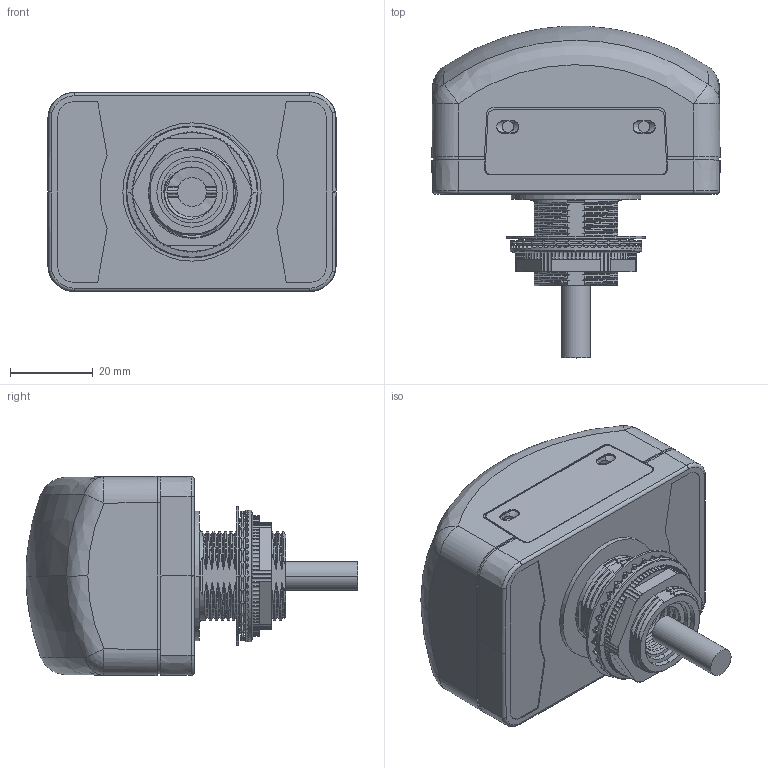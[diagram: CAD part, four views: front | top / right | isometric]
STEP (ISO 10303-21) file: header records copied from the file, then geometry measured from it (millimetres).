
FILE_DESCRIPTION((''),'2;1');
FILE_NAME('800Z-GL2_ASM','2013-10-03T',('Gkariappa'),(''),'PRO/ENGINEER BY PARAMETRIC TECHNOLOGY CORPORATION, 2010140','PRO/ENGINEER BY PARAMETRIC TECHNOLOGY CORPORATION, 2010140','');
FILE_SCHEMA(('CONFIG_CONTROL_DESIGN'));
Products named in the file (14): 40194-183_NEW_AF0; 40194-328_AF0_ASM; 40194-185; 40194-184-FORM; 40194-94284800; 10000010354; 40194-326_ASM; 40194-LABEL; 40194-456-20MMGSKT_NEW; 40194-465-LOCKWSHR_NEW; 40194-7501203601_NEW; 40194-7501203501_NEW; CABLE1; 800Z-GL2_ASM
Assembly tree (14 placements, depth 3):
  800Z-GL2_ASM
    40194-328_AF0_ASM
      40194-183_NEW_AF0
    40194-326_ASM
      40194-185
      40194-184-FORM  x2
      40194-94284800
      10000010354
    40194-LABEL
    40194-456-20MMGSKT_NEW
    40194-465-LOCKWSHR_NEW
    40194-7501203601_NEW
    40194-7501203501_NEW
    CABLE1
Bounding box: 69.85 x 80.45 x 48.26 mm (x, y, z)
Volume: 33903.4 mm3; surface area: 46394.8 mm2
Topology: 12 solids, 16 shells, 1811 faces, 5115 edges, 3344 vertices
Faces by surface type: plane 863, cylinder 452, bspline 376, cone 55, torus 43, sphere 18, extrusion 4
Entity records: 151059 total; most frequent: CARTESIAN_POINT 110246, ORIENTED_EDGE 9968, DIRECTION 6181, EDGE_CURVE 5000, VERTEX_POINT 3262, B_SPLINE_CURVE_WITH_KNOTS 2410, AXIS2_PLACEMENT_3D 2141, VECTOR 1899
